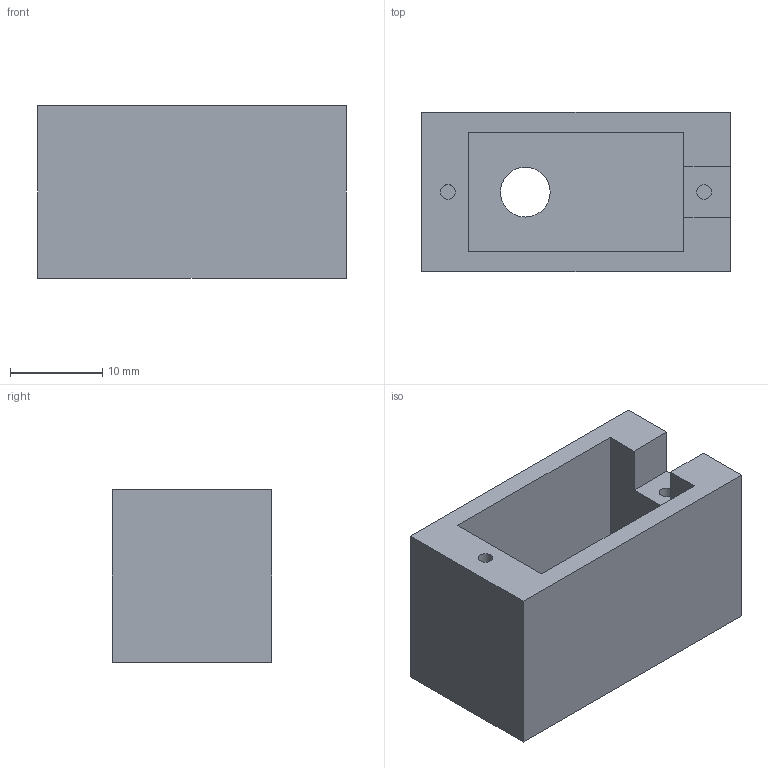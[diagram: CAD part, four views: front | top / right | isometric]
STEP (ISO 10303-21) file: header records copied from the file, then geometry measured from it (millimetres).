
FILE_DESCRIPTION(('FreeCAD Model'),'2;1');
FILE_NAME('Open CASCADE Shape Model','2026-11-08T20:38:38',('FreeCAD'),( 'FreeCAD'),'Open CASCADE STEP processor 7.8','FreeCAD','Unknown');
FILE_SCHEMA(('AUTOMOTIVE_DESIGN { 1 0 10303 214 1 1 1 1 }'));
Length unit declared in the file: millimetre
Products named in the file (1): Open CASCADE STEP translator 7.8 1
Bounding box: 33.5 x 17.3 x 18.7 mm (x, y, z)
Volume: 5685.2 mm3; surface area: 4370.8 mm2
Topology: 1 solids, 1 shells, 27 faces, 57 edges, 38 vertices
Faces by surface type: plane 20, cylinder 7
Full cylindrical faces by diameter (mm): 1.6 x6, 5.4 x1
Entity records: 739 total; most frequent: DIRECTION 127, CARTESIAN_POINT 123, ORIENTED_EDGE 114, EDGE_CURVE 57, LINE 43, VECTOR 43, AXIS2_PLACEMENT_3D 42, VERTEX_POINT 38
